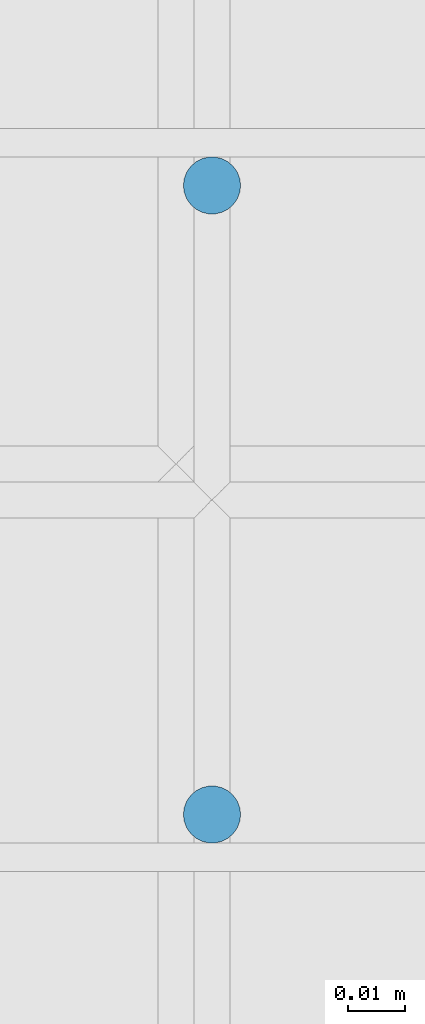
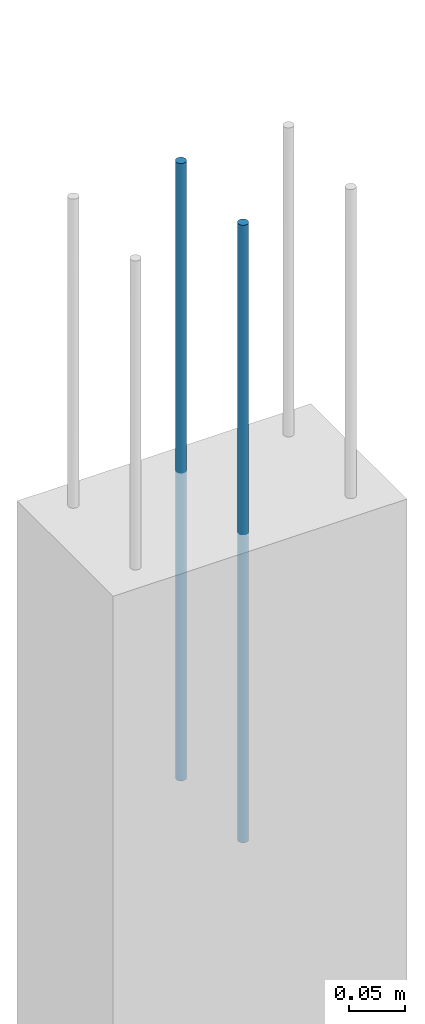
# One storey, part 107 of 119: 2 reinforcing bars.
"""IFC4 building model written with IfcOpenShell, lengths in centimetres."""

from ifc_helpers import new_model, entity, si_unit, derived_unit, frame, origin_with_axes, place, context, project, spatial, element, save


model = new_model("IFC4")

# Units and contexts
model_context = context("Model", 3, precision=1e-05, world=origin_with_axes(), identifier="Body")
ifc_project = project(units=[si_unit("LENGTHUNIT", "METRE", prefix="CENTI"), si_unit("VOLUMEUNIT", "CUBIC_METRE"), si_unit("AREAUNIT", "SQUARE_METRE"), si_unit("POWERUNIT", "WATT"), si_unit("LUMINOUSFLUXUNIT", "LUMEN"), si_unit("ELECTRICCURRENTUNIT", "AMPERE"), si_unit("PRESSUREUNIT", "PASCAL", prefix="KILO"), si_unit("MASSUNIT", "GRAM", prefix="KILO"), si_unit("PLANEANGLEUNIT", "RADIAN"), derived_unit("VOLUMETRICFLOWRATEUNIT", [(si_unit("LENGTHUNIT", "METRE"), 3), (si_unit("TIMEUNIT", "SECOND"), -1)])], contexts=[model_context])

# Site, building, storey
site_placement = place(None, frame((-4000.0, 0.0, 0.0), z_axis=(0.0, 0.0, 1.0), x_axis=(1.0, 0.0, 0.0)))
site = spatial("IfcSite", under=ifc_project, at=site_placement, Name="PADRÃO")
building_placement = place(site_placement, frame((0.0, 0.0, -14.0)))
building = spatial("IfcBuilding", under=site, at=building_placement, Name="CRECHE PRÉ-ESCOLA TIPO 2")
storey_placement = place(building_placement, origin_with_axes())
storey = spatial("IfcBuildingStorey", under=building, at=storey_placement, Name="FUNDAÇÃO", CompositionType="ELEMENT", Elevation=-14.0)

# Reinforcing bars
for number, where, z_axis, x_axis, name in (
    (1, (2248.76, 3475.52, 33.3573001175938), (0.0, 0.0, 1.0), (1.0, 0.0, 0.0), "P42 - Longitudinal"),
    (2, (2248.76, 3464.52, 33.3573001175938), (0.0, 0.0, 1.0), (1.0, 0.0, 0.0), "P42 - Longitudinal"),
):
    element("IfcReinforcingBar", number, at=place(storey_placement, frame(where, z_axis=z_axis, x_axis=x_axis)), inside=storey, Name=name, BarLength=0.0, CrossSectionArea=7.853981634e-05, NominalDiameter=1.0, PredefinedType="MAIN", context=model_context, shape_type="AdvancedSweptSolid", body=[
        entity("IfcSweptDiskSolid", entity("IfcCompositeCurve", [entity("IfcCompositeCurveSegment", "CONTINUOUS", True, entity("IfcPolyline", [entity("IfcCartesianPoint", [0.0, 0.0, -66.7146002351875]), entity("IfcCartesianPoint", [0.0, 0.0, 0.0])]))], False), 0.5),
    ])

save(model, "model.ifc")
